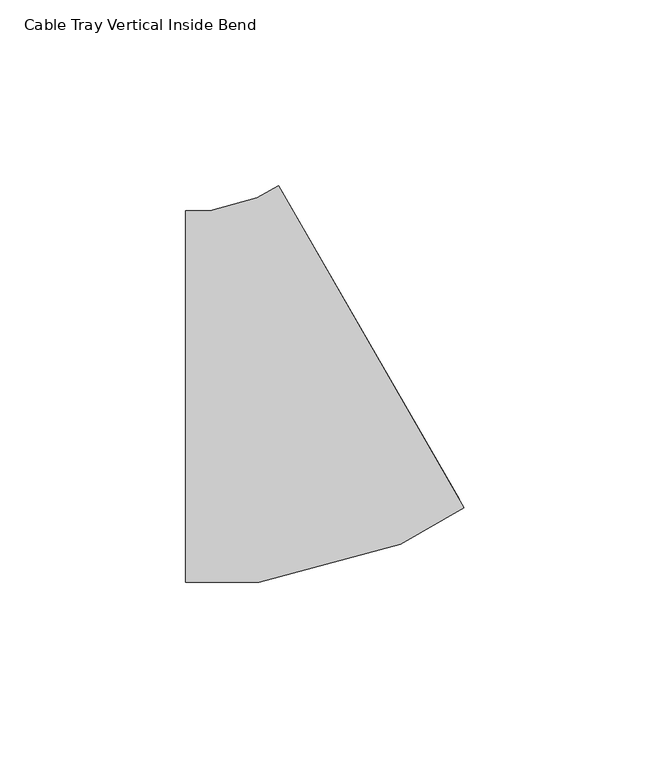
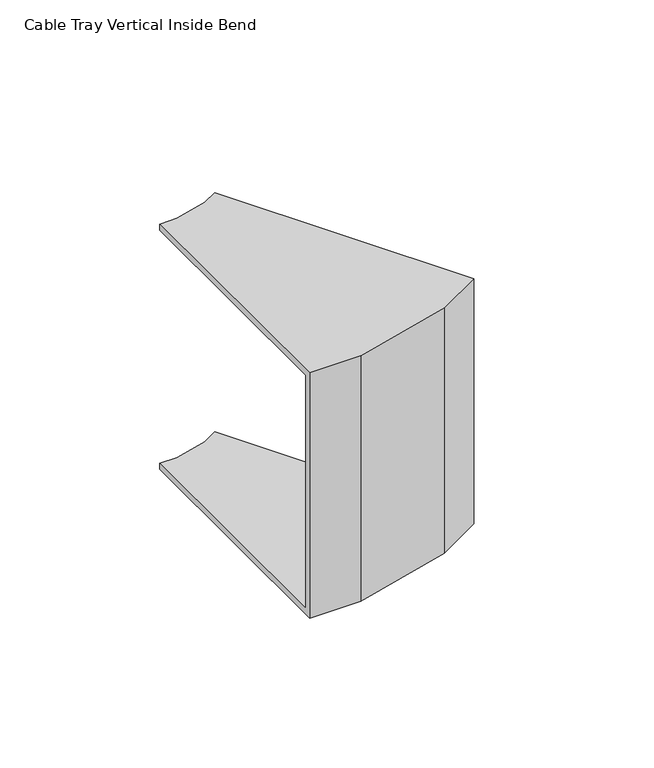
"""IFC4 building model written with IfcOpenShell, lengths in millimetres: cable carrier fitting geometry, Cable Tray Vertical Inside Bend : ELEC_ELV_TKG_N2402."""

from ifc_helpers import new_model, si_unit, origin, place, context, project, spatial, faceted_brep, source, transform, mapped, element, save


def cable_tray_vertical_inside_bend_801f750d(model_context):
    return source(origin(), model_context, "Body", "Brep", [
        faceted_brep([(-26.7949182, 50.0, 50.0), (-26.7949182, 50.0, 47.46), (-26.7949182, -47.46, 47.46), (-26.7949182, -47.46, -47.46), (-26.7949182, 50.0, -47.46), (-26.7949182, 50.0, -50.0), (-26.7949182, -50.0, -50.0), (-26.7949182, -50.0, 50.0), (-1.7949191, 56.6987293, 50.0), (48.2050793, -29.903812, 50.0), (48.2050793, -29.903812, -50.0), (-1.7949191, 56.6987293, -50.0), (-1.7949191, 56.6987293, -47.46), (46.9350794, -27.7041074, -47.46), (46.9350794, -27.7041074, 47.46), (-1.7949191, 56.6987293, 47.46), (-20.2122936, 50.0, 50.0), (-20.2122936, 50.0, 47.46), (-7.4956393, 53.4074171, 47.46), (30.1225153, -37.4108454, 47.46), (-7.3814416, -47.46, 47.46), (-7.3814416, -47.46, -47.46), (30.1225153, -37.4108454, -47.46), (-7.4956393, 53.4074171, -47.46), (-20.2122936, 50.0, -47.46), (-20.2122936, 50.0, -50.0), (-7.4956393, 53.4074171, -50.0), (31.1029187, -39.7777486, -50.0), (-7.0470443, -50.0, -50.0), (-7.0470443, -50.0, 50.0), (31.1029187, -39.7777486, 50.0), (-7.4956393, 53.4074171, 50.0)], [[[0, 1, 2, 3, 4, 5, 6, 7]], [[8, 9, 10, 11, 12, 13, 14, 15]], [[1, 0, 16, 17]], [[2, 1, 17, 18, 15, 14, 19, 20]], [[3, 2, 20, 21]], [[4, 3, 21, 22, 13, 12, 23, 24]], [[5, 4, 24, 25]], [[6, 5, 25, 26, 11, 10, 27, 28]], [[7, 6, 28, 29]], [[0, 7, 29, 30, 9, 8, 31, 16]], [[17, 16, 31, 18]], [[21, 20, 19, 22]], [[25, 24, 23, 26]], [[29, 28, 27, 30]], [[18, 31, 8, 15]], [[22, 19, 14, 13]], [[26, 23, 12, 11]], [[30, 27, 10, 9]]]),
    ])


if __name__ == "__main__":
    model = new_model("IFC4")
    model_context = context("Model", 3, world=origin())
    ifc_project = project(units=[si_unit("LENGTHUNIT", "METRE", prefix="MILLI")], contexts=[model_context])
    site = spatial("IfcSite", under=ifc_project)
    building = spatial("IfcBuilding", under=site)
    placement = place(None, origin())
    cable_tray_vertical_inside_bend_shape = cable_tray_vertical_inside_bend_801f750d(model_context)
    element("IfcCableCarrierFitting", 1, ObjectType="Cable Tray Vertical Inside Bend : ELEC_ELV_TKG_N2402", at=placement, inside=building, context=model_context, shape_type="MappedRepresentation", body=[
        mapped(cable_tray_vertical_inside_bend_shape, transform((0.0, 0.0, 0.0), x_axis=(1.0, 0.0, 0.0), y_axis=(0.0, 1.0, 0.0), z_axis=(0.0, 0.0, 1.0))),
    ])
    save(model, "model.ifc")
